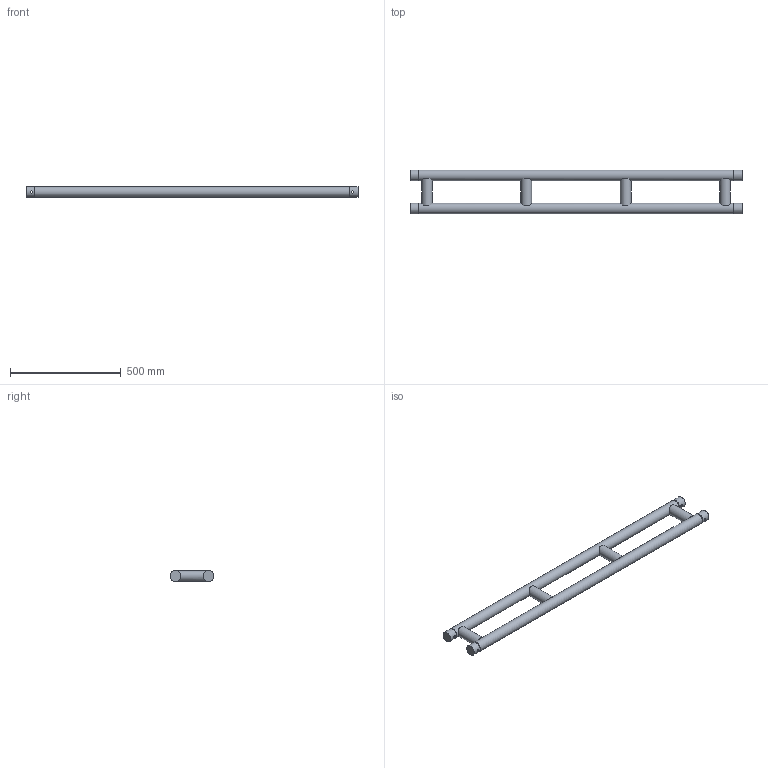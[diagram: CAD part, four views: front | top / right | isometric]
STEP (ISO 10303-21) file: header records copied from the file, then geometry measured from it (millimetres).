
FILE_DESCRIPTION(/* description */ (''),/* implementation_level */ '2;1');
FILE_NAME(/* name */ 'C:\Users\adrian.toca\Desktop\111050568.stp',/* time_stamp */ '2016-09-30T17:04:07+03:00',/* author */ ('adrian.toca'),/* organization */ (''),/* preprocessor_version */ 'ST-DEVELOPER v15.6',/* originating_system */ 'Autodesk Inventor 2015',/* authorisation */ '');
FILE_SCHEMA (('AUTOMOTIVE_DESIGN { 1 0 10303 214 3 1 1 }'));
Length unit declared in the file: millimetre
Products named in the file (1): 260031055
Bounding box: 1500 x 198.3 x 48.3 mm (x, y, z)
Volume: 6275819.7 mm3; surface area: 524509.4 mm2
Topology: 1 solids, 1 shells, 42 faces, 126 edges, 80 vertices
Faces by surface type: plane 24, cylinder 14, cone 4
Full cylindrical faces by diameter (mm): 10 x4, 48.3 x10
Entity records: 1505 total; most frequent: CARTESIAN_POINT 467, DIRECTION 198, ORIENTED_EDGE 160, AXIS2_PLACEMENT_3D 91, EDGE_LOOP 80, EDGE_CURVE 80, VERTEX_POINT 64, STYLED_ITEM 43
